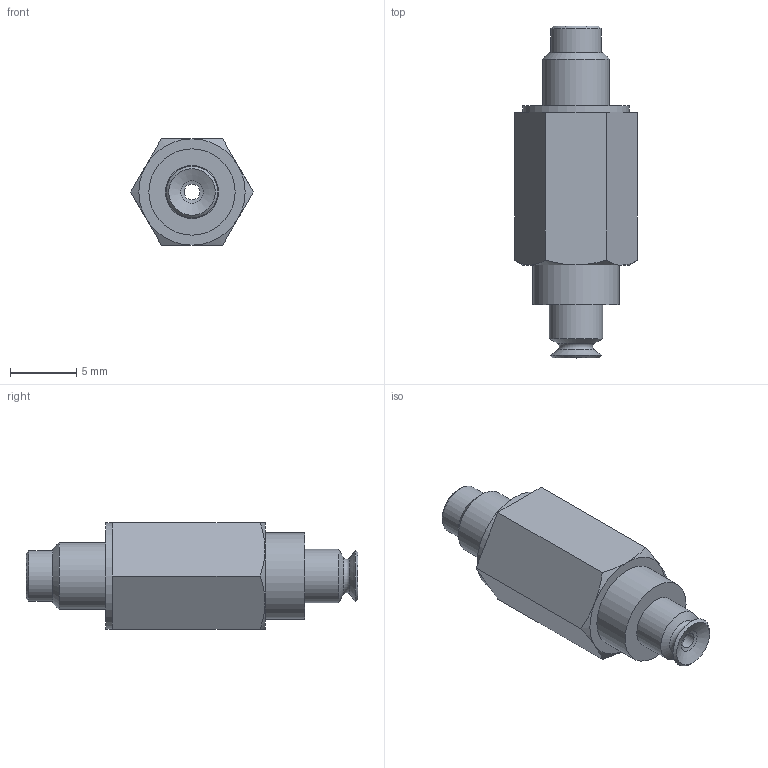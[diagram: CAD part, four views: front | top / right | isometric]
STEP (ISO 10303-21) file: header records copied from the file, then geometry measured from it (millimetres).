
FILE_DESCRIPTION(('STEP AP203'),'1');
FILE_NAME('.stp','2025-04-07T02:24:31',(' '),(' '),'Spatial InterOp 3D',' ',' ');
FILE_SCHEMA(('CONFIG_CONTROL_DESIGN'));
Length unit declared in the file: millimetre
Products named in the file (4): BPSS-S3-BPFG-3.5A-※; PSS-S3-PFG-1.5A M body; PSS-S3-PFG-1.5A F body; BPFG-3.5A-※
Assembly tree (3 placements, depth 2):
  BPSS-S3-BPFG-3.5A-※
    PSS-S3-PFG-1.5A M body
    PSS-S3-PFG-1.5A F body
    BPFG-3.5A-※
Bounding box: 9.24 x 25 x 8 mm (x, y, z)
Volume: 729.4 mm3; surface area: 1259.1 mm2
Topology: 3 solids, 3 shells, 62 faces, 119 edges, 71 vertices
Faces by surface type: plane 26, cylinder 15, cone 12, torus 8, bspline 1
Full cylindrical faces by diameter (mm): 1.2 x2, 2 x2, 2.5 x2, 3 x2, 3.5 x1, 3.8 x1, 4 x1, 5 x1, 6.5 x2, 8 x1
Entity records: 1607 total; most frequent: CARTESIAN_POINT 269, DIRECTION 258, ORIENTED_EDGE 170, AXIS2_PLACEMENT_3D 120, EDGE_LOOP 106, FACE_OUTER_BOUND 86, EDGE_CURVE 85, VERTEX_POINT 67
